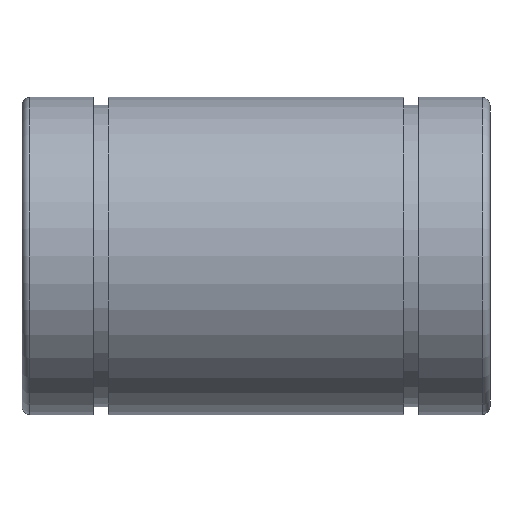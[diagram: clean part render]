
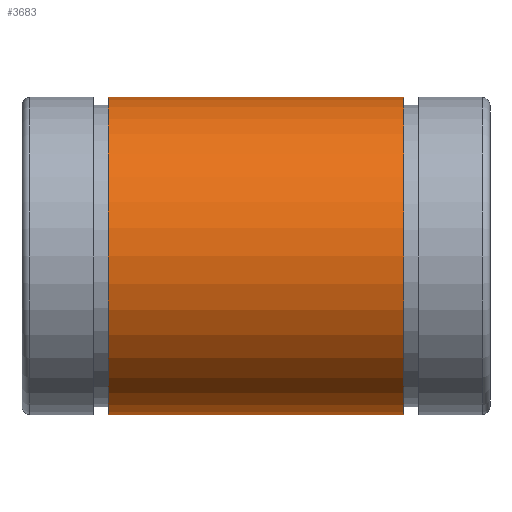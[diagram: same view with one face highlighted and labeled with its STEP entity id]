
A CAD part, front view. The second image highlights one B-rep face of the part: STEP entity #3683.
In plain terms, the highlighted cylindrical face has radius 20 mm (diameter 40 mm), a full revolution.
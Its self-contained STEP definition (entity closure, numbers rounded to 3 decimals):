
#23=CYLINDRICAL_SURFACE('',#3832,20.);
#38=CIRCLE('',#3833,20.);
#39=CIRCLE('',#3834,20.);
#66=FACE_BOUND('',#531,.T.);
#317=FACE_OUTER_BOUND('',#530,.T.);
#530=EDGE_LOOP('',(#3293));
#531=EDGE_LOOP('',(#3294));
#1774=VERTEX_POINT('',#6483);
#1775=VERTEX_POINT('',#6485);
#2287=EDGE_CURVE('',#1774,#1774,#38,.T.);
#2288=EDGE_CURVE('',#1775,#1775,#39,.T.);
#3293=ORIENTED_EDGE('',*,*,#2287,.F.);
#3294=ORIENTED_EDGE('',*,*,#2288,.T.);
#3683=ADVANCED_FACE('',(#317,#66),#23,.T.);
#3832=AXIS2_PLACEMENT_3D('',#6482,#4509,#4510);
#3833=AXIS2_PLACEMENT_3D('',#6484,#4511,#4512);
#3834=AXIS2_PLACEMENT_3D('',#6486,#4513,#4514);
#4509=DIRECTION('center_axis',(1.,0.,0.));
#4510=DIRECTION('ref_axis',(0.,1.,0.));
#4511=DIRECTION('center_axis',(1.,0.,0.));
#4512=DIRECTION('ref_axis',(0.,1.,0.));
#4513=DIRECTION('center_axis',(1.,0.,0.));
#4514=DIRECTION('ref_axis',(0.,1.,0.));
#6482=CARTESIAN_POINT('Origin',(0.,0.,0.));
#6483=CARTESIAN_POINT('',(18.65,-20.,0.));
#6484=CARTESIAN_POINT('Origin',(18.65,0.,0.));
#6485=CARTESIAN_POINT('',(-18.65,-20.,0.));
#6486=CARTESIAN_POINT('Origin',(-18.65,0.,0.));
